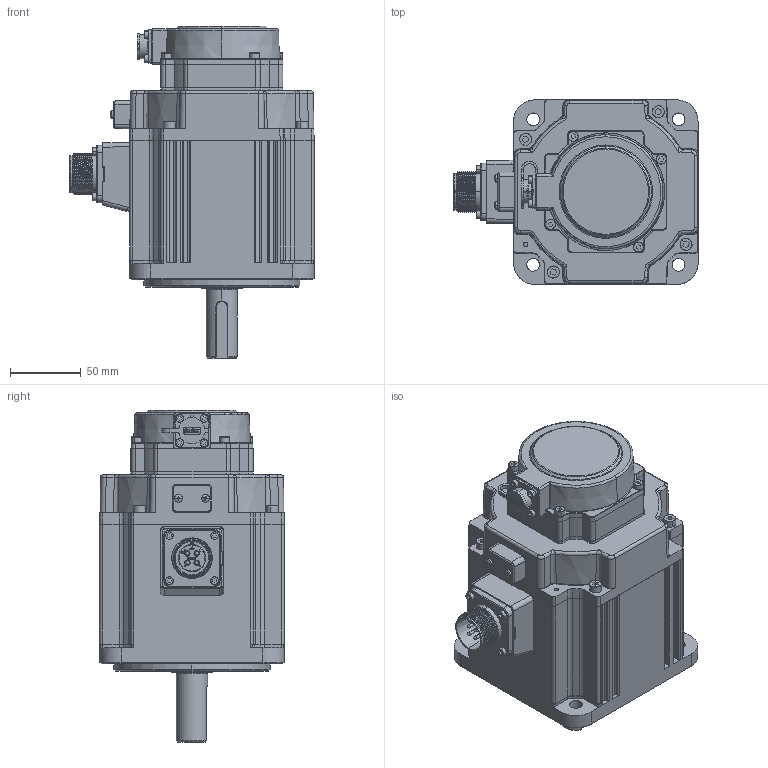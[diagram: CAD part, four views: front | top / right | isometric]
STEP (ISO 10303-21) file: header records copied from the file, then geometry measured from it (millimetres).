
FILE_DESCRIPTION (( 'STEP AP203' ), '1' );
FILE_NAME ('MS6G-130TH20BZ2-41P5.STEP', '2024-06-18T07:51:25', ( '' ), ( '' ), 'SwSTEP 2.0', 'SolidWorks 2022', '' );
FILE_SCHEMA (( 'CONFIG_CONTROL_DESIGN' ));
Products named in the file (1): MS6G-130TH20BZ2-41P5
Bounding box: 172.1 x 130 x 234 mm (x, y, z)
Volume: 2323289.7 mm3; surface area: 224956.2 mm2
Topology: 29 solids, 29 shells, 2945 faces, 7880 edges, 5124 vertices
Faces by surface type: plane 1468, cylinder 698, bspline 464, cone 157, torus 142, sphere 16
Entity records: 109915 total; most frequent: CARTESIAN_POINT 41951, ORIENTED_EDGE 15624, DIRECTION 11691, EDGE_CURVE 7812, VERTEX_POINT 5114, AXIS2_PLACEMENT_3D 3905, LINE 3881, VECTOR 3881
